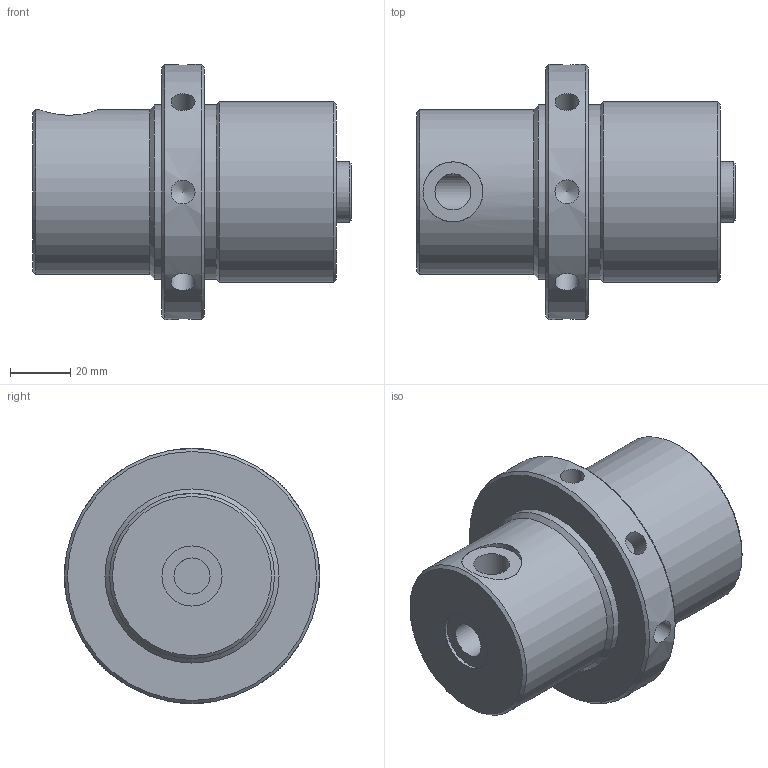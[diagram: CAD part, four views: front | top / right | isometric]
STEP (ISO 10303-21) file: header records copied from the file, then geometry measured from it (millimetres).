
FILE_DESCRIPTION( ( 'Unknown' ), '1' );
FILE_NAME( 'F:/JAKOB-STEP+IGES-Dateien/STEP-Dateien/ZSF/ZSF 1600.stp', 'Unknown', ( 'Unknown' ), ( 'Unknown' ), 'XStep 1.0', 'Unknown', ' ' );
FILE_SCHEMA( ( 'CONFIG_CONTROL_DESIGN' ) );
Length unit declared in the file: millimetre
Products named in the file (1): 1
Bounding box: 106 x 85 x 85 mm (x, y, z)
Volume: 294689.3 mm3; surface area: 34991.7 mm2
Topology: 1 solids, 1 shells, 45 faces, 103 edges, 63 vertices
Faces by surface type: cylinder 19, cone 18, plane 8
Full cylindrical faces by diameter (mm): 8 x8, 12 x3, 20 x3, 55 x1, 58 x2, 60 x1, 85 x1
Entity records: 1583 total; most frequent: CARTESIAN_POINT 759, DIRECTION 166, ORIENTED_EDGE 92, EDGE_LOOP 90, AXIS2_PLACEMENT_3D 83, FACE_OUTER_BOUND 64, VERTEX_POINT 55, EDGE_CURVE 46
